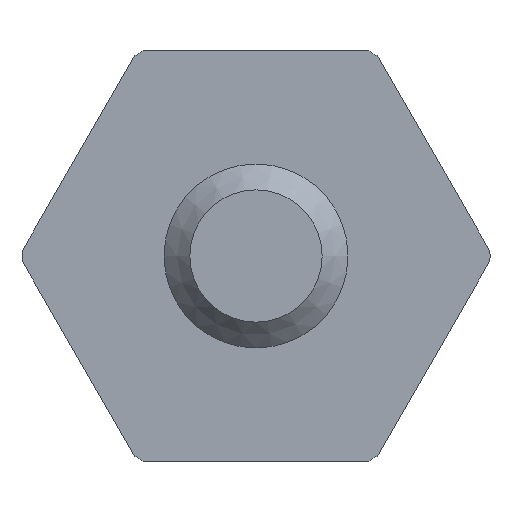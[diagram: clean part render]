
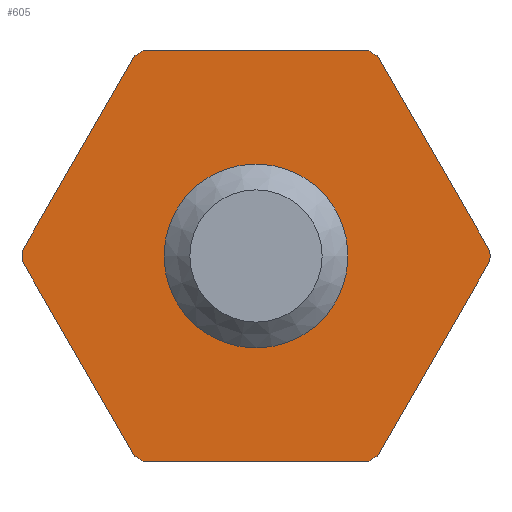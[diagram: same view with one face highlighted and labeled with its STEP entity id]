
A CAD part, left-side view. The second image highlights one B-rep face of the part: STEP entity #605.
In plain terms, the highlighted planar face has unit normal (-1, 0, 0).
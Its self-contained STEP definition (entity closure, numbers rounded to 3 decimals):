
#30=FACE_BOUND($,#149,.T.);
#55=CIRCLE($,#643,3.619);
#56=CIRCLE($,#645,3.619);
#59=CIRCLE($,#649,3.619);
#61=CIRCLE($,#652,3.619);
#63=CIRCLE($,#655,3.619);
#70=CIRCLE($,#669,1.029);
#71=CIRCLE($,#671,3.619);
#102=FACE_OUTER_BOUND($,#148,.T.);
#148=EDGE_LOOP($,(#494,#495,#496,#497,#498,#499,#500,#501,#502,#503,#504,
#505));
#149=EDGE_LOOP($,(#506));
#178=LINE($,#924,#222);
#182=LINE($,#933,#226);
#186=LINE($,#942,#230);
#190=LINE($,#951,#234);
#196=LINE($,#963,#240);
#200=LINE($,#991,#244);
#222=VECTOR($,#749,3.485);
#226=VECTOR($,#755,3.485);
#230=VECTOR($,#761,3.485);
#234=VECTOR($,#767,3.485);
#240=VECTOR($,#775,3.485);
#244=VECTOR($,#817,3.485);
#266=VERTEX_POINT($,#920);
#268=VERTEX_POINT($,#923);
#270=VERTEX_POINT($,#929);
#272=VERTEX_POINT($,#932);
#274=VERTEX_POINT($,#938);
#276=VERTEX_POINT($,#941);
#278=VERTEX_POINT($,#947);
#280=VERTEX_POINT($,#950);
#283=VERTEX_POINT($,#957);
#285=VERTEX_POINT($,#961);
#287=VERTEX_POINT($,#967);
#288=VERTEX_POINT($,#971);
#295=VERTEX_POINT($,#1005);
#328=EDGE_CURVE($,#268,#266,#178,.T.);
#332=EDGE_CURVE($,#272,#270,#182,.T.);
#336=EDGE_CURVE($,#276,#274,#186,.T.);
#340=EDGE_CURVE($,#280,#278,#190,.T.);
#346=EDGE_CURVE($,#283,#285,#196,.T.);
#349=EDGE_CURVE($,#287,#285,#55,.T.);
#350=EDGE_CURVE($,#268,#288,#56,.T.);
#354=EDGE_CURVE($,#283,#278,#59,.T.);
#356=EDGE_CURVE($,#280,#274,#61,.T.);
#358=EDGE_CURVE($,#276,#270,#63,.T.);
#362=EDGE_CURVE($,#287,#288,#200,.T.);
#367=EDGE_CURVE($,#295,#295,#70,.T.);
#368=EDGE_CURVE($,#272,#266,#71,.T.);
#494=ORIENTED_EDGE($,*,*,#328,.T.);
#495=ORIENTED_EDGE($,*,*,#368,.F.);
#496=ORIENTED_EDGE($,*,*,#332,.T.);
#497=ORIENTED_EDGE($,*,*,#358,.F.);
#498=ORIENTED_EDGE($,*,*,#336,.T.);
#499=ORIENTED_EDGE($,*,*,#356,.F.);
#500=ORIENTED_EDGE($,*,*,#340,.T.);
#501=ORIENTED_EDGE($,*,*,#354,.F.);
#502=ORIENTED_EDGE($,*,*,#346,.T.);
#503=ORIENTED_EDGE($,*,*,#349,.F.);
#504=ORIENTED_EDGE($,*,*,#362,.T.);
#505=ORIENTED_EDGE($,*,*,#350,.F.);
#506=ORIENTED_EDGE($,*,*,#367,.T.);
#536=PLANE($,#670);
#605=ADVANCED_FACE($,(#102,#30),#536,.T.);
#643=AXIS2_PLACEMENT_3D($,#969,#781,#782);
#645=AXIS2_PLACEMENT_3D($,#972,#785,#786);
#649=AXIS2_PLACEMENT_3D($,#978,#794,#795);
#652=AXIS2_PLACEMENT_3D($,#981,#800,#801);
#655=AXIS2_PLACEMENT_3D($,#984,#806,#807);
#669=AXIS2_PLACEMENT_3D($,#1006,#836,#837);
#670=AXIS2_PLACEMENT_3D($,#1007,#838,#839);
#671=AXIS2_PLACEMENT_3D($,#1008,#840,#841);
#749=DIRECTION($,(0.,0.5,-0.866));
#755=DIRECTION($,(0.,-0.5,-0.866));
#761=DIRECTION($,(0.,-1.,0.));
#767=DIRECTION($,(0.,-0.5,0.866));
#775=DIRECTION($,(0.,0.5,0.866));
#781=DIRECTION('center_axis',(1.,0.,0.));
#782=DIRECTION('ref_axis',(0.,0.,
-1.));
#785=DIRECTION('center_axis',(1.,0.,0.));
#786=DIRECTION('ref_axis',(0.,0.,
-1.));
#794=DIRECTION('center_axis',(1.,0.,0.));
#795=DIRECTION('ref_axis',(0.,0.,
-1.));
#800=DIRECTION('center_axis',(1.,0.,0.));
#801=DIRECTION('ref_axis',(0.,0.,
-1.));
#806=DIRECTION('center_axis',(1.,0.,0.));
#807=DIRECTION('ref_axis',(0.,0.,
-1.));
#817=DIRECTION($,(0.,1.,0.));
#836=DIRECTION('center_axis',(1.,0.,0.));
#837=DIRECTION('ref_axis',(0.,0.,
-1.));
#838=DIRECTION('center_axis',(-1.,0.,0.));
#839=DIRECTION('ref_axis',(0.,0.,1.));
#840=DIRECTION('center_axis',(1.,0.,0.));
#841=DIRECTION('ref_axis',(0.,0.,
-1.));
#920=CARTESIAN_POINT('',(-6.014,13.938,2.679));
#923=CARTESIAN_POINT('',(-6.014,12.196,5.697));
#924=CARTESIAN_POINT($,(-6.014,13.51,3.422));
#929=CARTESIAN_POINT('',(-6.014,12.196,-0.493));
#932=CARTESIAN_POINT('',(-6.014,13.938,2.525));
#933=CARTESIAN_POINT($,(-6.014,13.53,1.817));
#938=CARTESIAN_POINT('',(-6.014,8.578,-0.57));
#941=CARTESIAN_POINT('',(-6.014,12.063,-0.57));
#942=CARTESIAN_POINT($,(-6.014,12.15,-0.57));
#947=CARTESIAN_POINT('',(-6.014,6.702,2.525));
#950=CARTESIAN_POINT('',(-6.014,8.444,-0.493));
#951=CARTESIAN_POINT($,(-6.014,8.036,0.215));
#957=CARTESIAN_POINT('',(-6.014,6.702,2.679));
#961=CARTESIAN_POINT('',(-6.014,8.444,5.697));
#963=CARTESIAN_POINT($,(-6.014,8.016,4.954));
#967=CARTESIAN_POINT('',(-6.014,8.578,5.774));
#969=CARTESIAN_POINT('Origin',(-6.014,10.32,2.602));
#971=CARTESIAN_POINT('',(-6.014,12.063,5.774));
#972=CARTESIAN_POINT('Origin',(-6.014,10.32,2.602));
#978=CARTESIAN_POINT('Origin',(-6.014,10.32,2.602));
#981=CARTESIAN_POINT('Origin',(-6.014,10.32,2.602));
#984=CARTESIAN_POINT('Origin',(-6.014,10.32,2.602));
#991=CARTESIAN_POINT($,(-6.014,12.11,5.774));
#1005=CARTESIAN_POINT('',(-6.014,11.349,2.602));
#1006=CARTESIAN_POINT('Origin',(-6.014,10.32,2.602));
#1007=CARTESIAN_POINT('Origin',(-6.014,13.939,2.602));
#1008=CARTESIAN_POINT('Origin',(-6.014,10.32,2.602));
